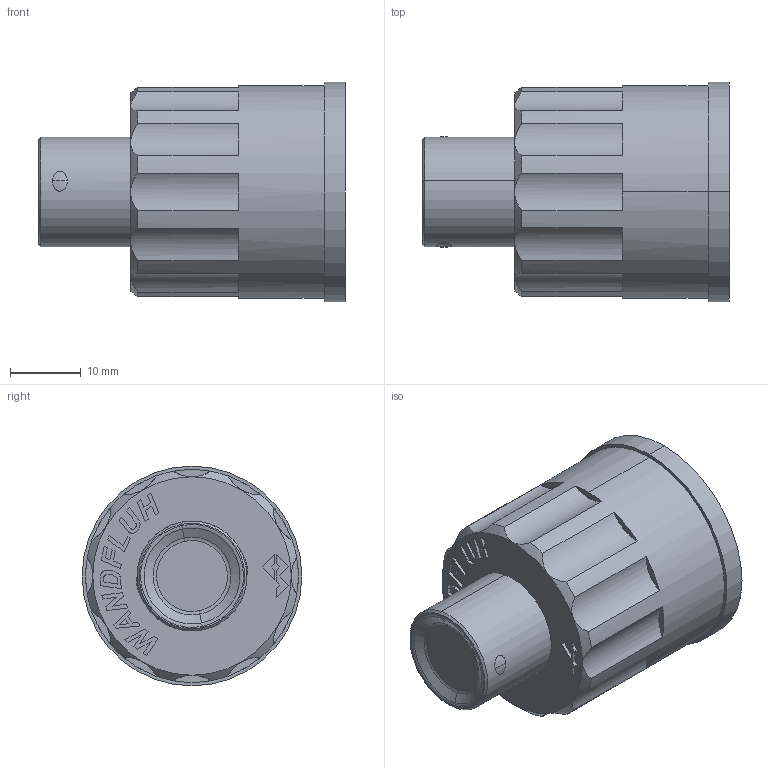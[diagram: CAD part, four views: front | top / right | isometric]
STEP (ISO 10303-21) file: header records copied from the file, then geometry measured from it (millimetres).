
FILE_DESCRIPTION (( 'STEP AP214' ), '1' );
FILE_NAME ('HF1-M19.STEP', '2017-04-07T05:15:39', ( '' ), ( '' ), 'SwSTEP 2.0', 'SolidWorks 2016', '' );
FILE_SCHEMA (( 'AUTOMOTIVE_DESIGN' ));
Length unit declared in the file: millimetre
Products named in the file (1): HF1-M19
Bounding box: 43.3 x 31 x 31 mm (x, y, z)
Surface area: 6606.2 mm2 (no closed solid volume)
Topology: 0 solids, 2 shells, 187 faces, 492 edges, 323 vertices
Faces by surface type: plane 120, cylinder 25, cone 18, bspline 16, sphere 4, torus 4
Entity records: 8836 total; most frequent: CARTESIAN_POINT 2219, ORIENTED_EDGE 966, DIRECTION 869, EDGE_CURVE 492, VECTOR 335, LINE 335, VERTEX_POINT 323, AXIS2_PLACEMENT_3D 267
